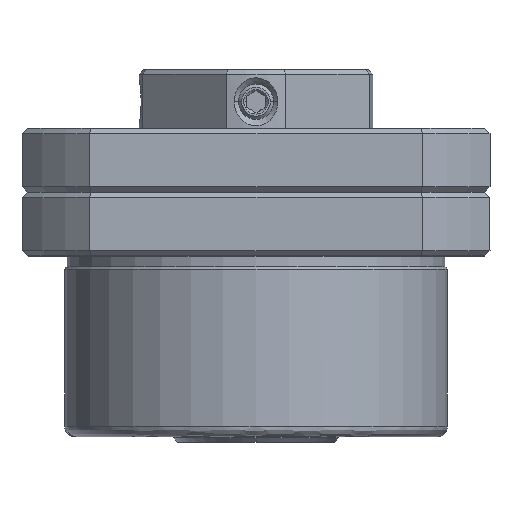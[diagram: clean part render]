
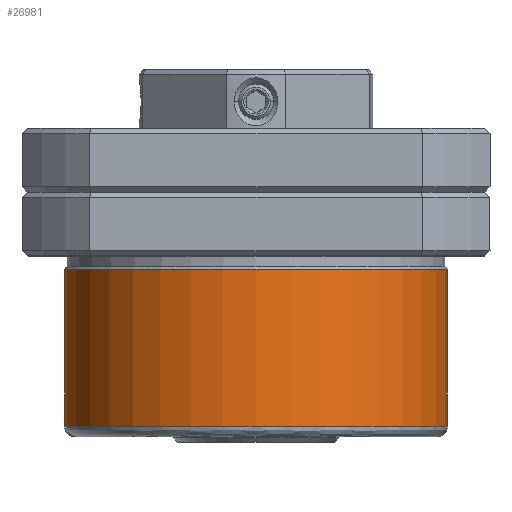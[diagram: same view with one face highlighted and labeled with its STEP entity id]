
A CAD part, front view. The second image highlights one B-rep face of the part: STEP entity #26981.
In plain terms, the highlighted cylindrical face has radius 18 mm (diameter 36 mm), a partial arc.
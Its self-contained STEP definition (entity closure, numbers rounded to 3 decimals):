
#35 = ORIENTED_EDGE ( 'NONE', *, *, #10099, .T. ) ;
#1911 = CARTESIAN_POINT ( 'NONE',  ( 0., 0., -22. ) ) ;
#2168 = AXIS2_PLACEMENT_3D ( 'NONE', #25666, #7546, #28395 ) ;
#2676 = AXIS2_PLACEMENT_3D ( 'NONE', #1911, #17231, #30415 ) ;
#5938 = CIRCLE ( 'NONE', #2676, 18. ) ;
#5962 = ORIENTED_EDGE ( 'NONE', *, *, #20712, .T. ) ;
#7546 = DIRECTION ( 'NONE',  ( 0., 0., 1. ) ) ;
#10099 = EDGE_CURVE ( 'NONE', #24627, #23353, #31361, .T. ) ;
#10509 = CARTESIAN_POINT ( 'NONE',  ( 0., 0., -22. ) ) ;
#10574 = LINE ( 'NONE', #28837, #32749 ) ;
#12106 = CIRCLE ( 'NONE', #30639, 18. ) ;
#13482 = VERTEX_POINT ( 'NONE', #19565 ) ;
#15565 = CARTESIAN_POINT ( 'NONE',  ( 18., 0., -22. ) ) ;
#16346 = ORIENTED_EDGE ( 'NONE', *, *, #32108, .T. ) ;
#17231 = DIRECTION ( 'NONE',  ( 0., 0., 1. ) ) ;
#17433 = VECTOR ( 'NONE', #20745, 1000. ) ;
#17444 = VERTEX_POINT ( 'NONE', #23444 ) ;
#17574 = ORIENTED_EDGE ( 'NONE', *, *, #18652, .F. ) ;
#18178 = EDGE_LOOP ( 'NONE', ( #26962, #16346, #5962, #35, #17574 ) ) ;
#18652 = EDGE_CURVE ( 'NONE', #30697, #23353, #21629, .T. ) ;
#19565 = CARTESIAN_POINT ( 'NONE',  ( -18., -0.009, -22. ) ) ;
#20712 = EDGE_CURVE ( 'NONE', #13482, #24627, #5938, .T. ) ;
#20745 = DIRECTION ( 'NONE',  ( 0., 0., 1. ) ) ;
#21319 = DIRECTION ( 'NONE',  ( 0., 0., 1. ) ) ;
#21629 = CIRCLE ( 'NONE', #29298, 18. ) ;
#21740 = DIRECTION ( 'NONE',  ( 0., 0., 1. ) ) ;
#21763 = EDGE_CURVE ( 'NONE', #17444, #30697, #10574, .T. ) ;
#22823 = CARTESIAN_POINT ( 'NONE',  ( 18., 0., -7.25 ) ) ;
#23254 = CYLINDRICAL_SURFACE ( 'NONE', #2168, 18. ) ;
#23353 = VERTEX_POINT ( 'NONE', #22823 ) ;
#23444 = CARTESIAN_POINT ( 'NONE',  ( -18., 0., -22. ) ) ;
#24627 = VERTEX_POINT ( 'NONE', #15565 ) ;
#24649 = CARTESIAN_POINT ( 'NONE',  ( -18., 0., -7.25 ) ) ;
#25666 = CARTESIAN_POINT ( 'NONE',  ( 0., 0., -24.15 ) ) ;
#26227 = CARTESIAN_POINT ( 'NONE',  ( 18., 0., -24.15 ) ) ;
#26707 = DIRECTION ( 'NONE',  ( 0., -1., 0. ) ) ;
#26874 = CARTESIAN_POINT ( 'NONE',  ( 0., 0., -7.25 ) ) ;
#26962 = ORIENTED_EDGE ( 'NONE', *, *, #21763, .F. ) ;
#26981 = ADVANCED_FACE ( 'NONE', ( #33157 ), #23254, .T. ) ;
#28395 = DIRECTION ( 'NONE',  ( 1., 0., 0. ) ) ;
#28759 = DIRECTION ( 'NONE',  ( 0., 0., 1. ) ) ;
#28837 = CARTESIAN_POINT ( 'NONE',  ( -18., 0., -24.15 ) ) ;
#29115 = DIRECTION ( 'NONE',  ( 1., 0., 0. ) ) ;
#29298 = AXIS2_PLACEMENT_3D ( 'NONE', #26874, #21740, #26707 ) ;
#30415 = DIRECTION ( 'NONE',  ( 1., 0., 0. ) ) ;
#30639 = AXIS2_PLACEMENT_3D ( 'NONE', #10509, #28759, #29115 ) ;
#30697 = VERTEX_POINT ( 'NONE', #24649 ) ;
#31361 = LINE ( 'NONE', #26227, #17433 ) ;
#32108 = EDGE_CURVE ( 'NONE', #17444, #13482, #12106, .T. ) ;
#32749 = VECTOR ( 'NONE', #21319, 1000. ) ;
#33157 = FACE_OUTER_BOUND ( 'NONE', #18178, .T. ) ;
